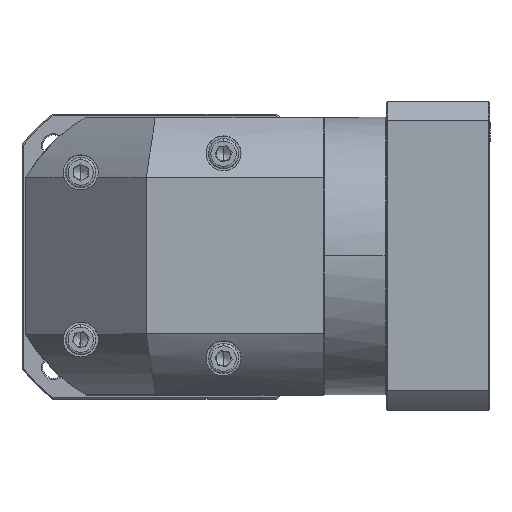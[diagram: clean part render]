
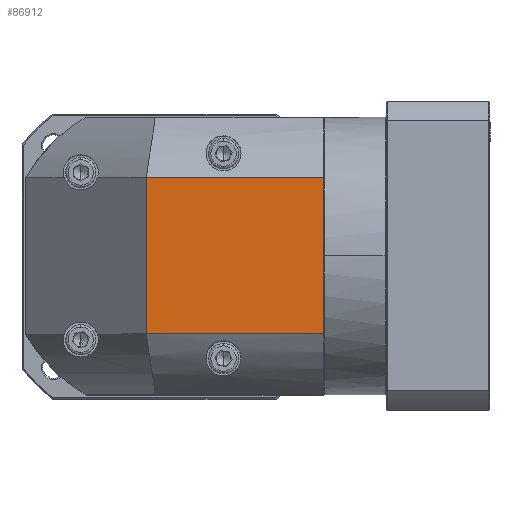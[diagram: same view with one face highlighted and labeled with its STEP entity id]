
A CAD part, top view. The second image highlights one B-rep face of the part: STEP entity #86912.
In plain terms, the highlighted planar face has unit normal (0, 0, 1).
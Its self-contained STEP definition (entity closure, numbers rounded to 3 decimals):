
#1087 = LINE ( 'NONE', #59922, #120885 ) ;
#2252 = LINE ( 'NONE', #98154, #96076 ) ;
#4728 = LINE ( 'NONE', #50012, #48493 ) ;
#5574 = EDGE_CURVE ( 'NONE', #121407, #100637, #4728, .T. ) ;
#8364 = DIRECTION ( 'NONE',  ( 1., 0., 0. ) ) ;
#18058 = VERTEX_POINT ( 'NONE', #39393 ) ;
#18154 = DIRECTION ( 'NONE',  ( -1., 0., 0. ) ) ;
#25374 = DIRECTION ( 'NONE',  ( 0., -1., 0. ) ) ;
#29371 = VERTEX_POINT ( 'NONE', #61052 ) ;
#35527 = DIRECTION ( 'NONE',  ( 0., -1., 0. ) ) ;
#35981 = DIRECTION ( 'NONE',  ( 0., 0., -1. ) ) ;
#38434 = ORIENTED_EDGE ( 'NONE', *, *, #101494, .F. ) ;
#38660 = CARTESIAN_POINT ( 'NONE',  ( 43.053, 52.121, 85.747 ) ) ;
#39393 = CARTESIAN_POINT ( 'NONE',  ( 116.453, 52.121, 85.747 ) ) ;
#42039 = VECTOR ( 'NONE', #18154, 1000. ) ;
#48493 = VECTOR ( 'NONE', #110639, 1000. ) ;
#50012 = CARTESIAN_POINT ( 'NONE',  ( 43.053, 142.021, 85.747 ) ) ;
#59045 = FACE_OUTER_BOUND ( 'NONE', #67113, .T. ) ;
#59922 = CARTESIAN_POINT ( 'NONE',  ( -6.947, 116.921, 85.747 ) ) ;
#61052 = CARTESIAN_POINT ( 'NONE',  ( 116.453, 116.921, 85.747 ) ) ;
#67113 = EDGE_LOOP ( 'NONE', ( #38434, #95058, #93669, #86747 ) ) ;
#74041 = CARTESIAN_POINT ( 'NONE',  ( 43.053, 116.921, 85.747 ) ) ;
#75989 = LINE ( 'NONE', #121675, #42039 ) ;
#86747 = ORIENTED_EDGE ( 'NONE', *, *, #108793, .F. ) ;
#86912 = ADVANCED_FACE ( 'NONE', ( #59045 ), #116911, .F. ) ;
#88195 = AXIS2_PLACEMENT_3D ( 'NONE', #128709, #35981, #35527 ) ;
#93669 = ORIENTED_EDGE ( 'NONE', *, *, #117322, .F. ) ;
#95058 = ORIENTED_EDGE ( 'NONE', *, *, #5574, .F. ) ;
#96076 = VECTOR ( 'NONE', #25374, 1000. ) ;
#98154 = CARTESIAN_POINT ( 'NONE',  ( 116.453, 142.021, 85.747 ) ) ;
#100637 = VERTEX_POINT ( 'NONE', #74041 ) ;
#101494 = EDGE_CURVE ( 'NONE', #100637, #29371, #1087, .T. ) ;
#108793 = EDGE_CURVE ( 'NONE', #29371, #18058, #2252, .T. ) ;
#110639 = DIRECTION ( 'NONE',  ( 0., 1., 0. ) ) ;
#116911 = PLANE ( 'NONE',  #88195 ) ;
#117322 = EDGE_CURVE ( 'NONE', #18058, #121407, #75989, .T. ) ;
#120885 = VECTOR ( 'NONE', #8364, 1000. ) ;
#121407 = VERTEX_POINT ( 'NONE', #38660 ) ;
#121675 = CARTESIAN_POINT ( 'NONE',  ( -6.947, 52.121, 85.747 ) ) ;
#128709 = CARTESIAN_POINT ( 'NONE',  ( 50.553, 84.521, 85.747 ) ) ;
